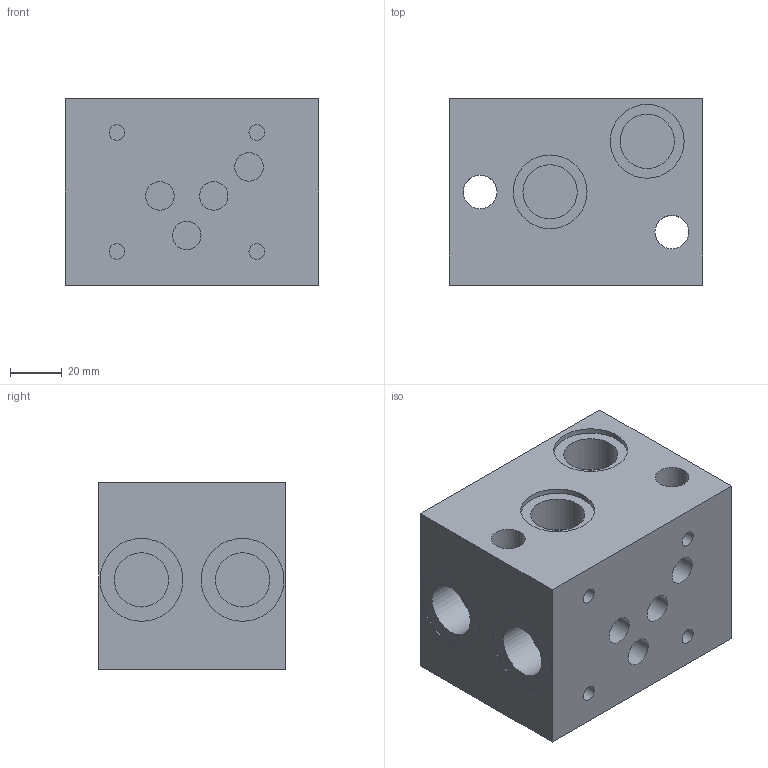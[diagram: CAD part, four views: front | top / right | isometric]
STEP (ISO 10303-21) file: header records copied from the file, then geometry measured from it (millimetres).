
FILE_DESCRIPTION(('Bauteilbeschreibung','HiCAD-Model','HiCAD-STEP-TRANSLATION','Bauteilbeschreibung'),'2;1');
FILE_NAME('C:/_EIGENE_DATEN/DXF_STEP/ALV10_3808.STP','2008-09-18T13:26:13+00:00',('Konstrukteur'),('Konstrukteur Firma GmbH'),' HiCAD neXt 2007, Step 3.1.1212.3C ','HiCAD neXt 2007','confidential');
FILE_SCHEMA(('AUTOMOTIVE_DESIGN { 1 2 10303 214 0 1 1 1 }'));
Length unit declared in the file: millimetre
Products named in the file (3): ALV10_3808; ALV10; F5B6B51B
Assembly tree (2 placements, depth 3):
  ALV10_3808
    ALV10
      F5B6B51B
Bounding box: 98 x 72 x 72 mm (x, y, z)
Volume: 451041.4 mm3; surface area: 52260.2 mm2
Topology: 1 solids, 1 shells, 44 faces, 89 edges, 65 vertices
Faces by surface type: plane 24, cylinder 20
Full cylindrical faces by diameter (mm): 6 x4, 11 x4, 13 x2, 20.955 x6, 28.5 x2, 32 x2
Entity records: 1005 total; most frequent: DIRECTION 188, CARTESIAN_POINT 148, ORIENTED_EDGE 104, AXIS2_PLACEMENT_3D 88, EDGE_LOOP 86, EDGE_CURVE 52, VERTEX_POINT 48, ADVANCED_FACE 44
